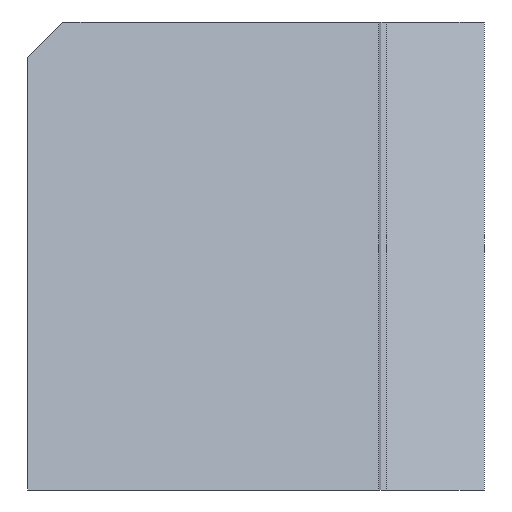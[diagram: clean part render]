
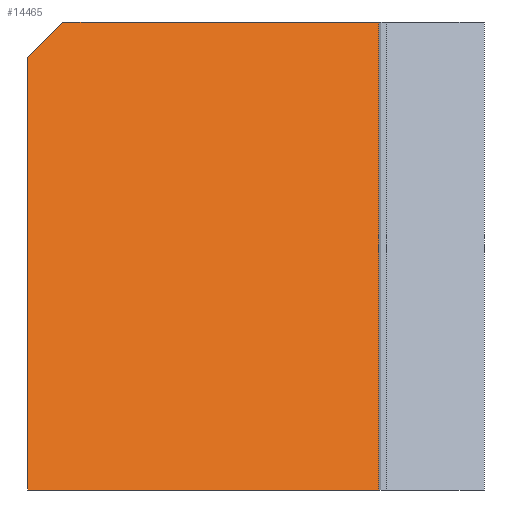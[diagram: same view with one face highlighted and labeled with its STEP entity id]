
A CAD part, left-side view. The second image highlights one B-rep face of the part: STEP entity #14465.
In plain terms, the highlighted planar face has unit normal (-0.943, 0, 0.334).
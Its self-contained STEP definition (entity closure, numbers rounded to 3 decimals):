
#1865=ORIENTED_EDGE('',*,*,#6237,.F.);
#1866=ORIENTED_EDGE('',*,*,#6238,.T.);
#1867=ORIENTED_EDGE('',*,*,#5198,.F.);
#1868=ORIENTED_EDGE('',*,*,#6239,.F.);
#1869=ORIENTED_EDGE('',*,*,#5784,.F.);
#5198=EDGE_CURVE('',#7384,#7385,#8821,.T.);
#5784=EDGE_CURVE('',#7969,#7971,#9222,.T.);
#6237=EDGE_CURVE('',#8423,#7969,#9525,.T.);
#6238=EDGE_CURVE('',#8423,#7385,#9526,.T.);
#6239=EDGE_CURVE('',#7971,#7384,#9527,.T.);
#7384=VERTEX_POINT('',#19808);
#7385=VERTEX_POINT('',#19809);
#7969=VERTEX_POINT('',#22048);
#7971=VERTEX_POINT('',#22051);
#8423=VERTEX_POINT('',#22957);
#8821=LINE('',#19807,#10549);
#9222=LINE('',#22050,#10950);
#9525=LINE('',#22956,#11253);
#9526=LINE('',#22958,#11254);
#9527=LINE('',#22959,#11255);
#10549=VECTOR('',#16081,1000.);
#10950=VECTOR('',#16488,1000.);
#11253=VECTOR('',#17093,1000.);
#11254=VECTOR('',#17094,1000.);
#11255=VECTOR('',#17095,1000.);
#12228=EDGE_LOOP('',(#1865,#1866,#1867,#1868,#1869));
#13086=FACE_BOUND('',#12228,.T.);
#13903=PLANE('',#15421);
#14465=ADVANCED_FACE('',(#13086),#13903,.T.);
#15421=AXIS2_PLACEMENT_3D('',#22955,#17091,#17092);
#16081=DIRECTION('',(0.,1.,0.));
#16488=DIRECTION('',(0.,-1.,0.));
#17091=DIRECTION('',(-0.942,0.,0.334));
#17092=DIRECTION('',(0.,1.,0.));
#17093=DIRECTION('',(0.243,-0.686,0.686));
#17094=DIRECTION('',(-0.334,0.,-0.942));
#17095=DIRECTION('',(-0.334,0.,-0.942));
#19807=CARTESIAN_POINT('',(-14.187,-30.,-40.));
#19808=CARTESIAN_POINT('',(-14.187,-30.,-40.));
#19809=CARTESIAN_POINT('',(-14.187,0.,-40.));
#22048=CARTESIAN_POINT('',(0.,-3.,0.));
#22050=CARTESIAN_POINT('',(0.,0.,0.));
#22051=CARTESIAN_POINT('',(0.,-30.,0.));
#22955=CARTESIAN_POINT('',(0.,-30.,0.));
#22956=CARTESIAN_POINT('',(2.101,-8.923,5.923));
#22957=CARTESIAN_POINT('',(-1.064,0.,-3.));
#22958=CARTESIAN_POINT('',(0.,0.,0.));
#22959=CARTESIAN_POINT('',(0.,-30.,0.));
